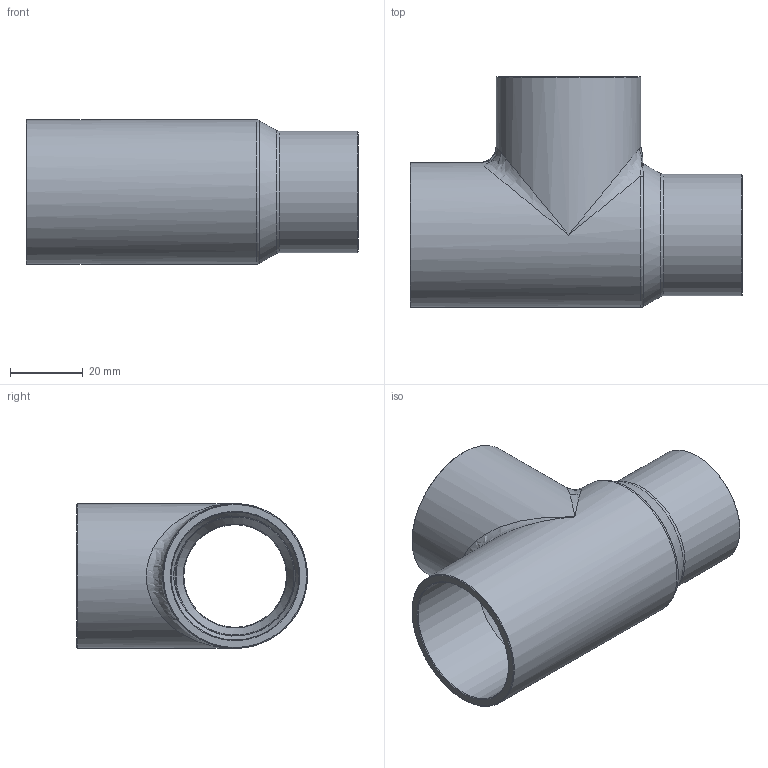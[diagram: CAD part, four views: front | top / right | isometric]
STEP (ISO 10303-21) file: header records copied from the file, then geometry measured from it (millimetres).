
FILE_DESCRIPTION((''),'2;1');
FILE_NAME('G:\SANHA-Ternat\Technik\Management\Bouwmaten + markeringen\z-maattekeningen 3D\29000s\29130138138118_3d.stp','2017-08-03T11:32:40',('vdvijverd'),(''),'Autodesk Inventor 2009','Autodesk Inventor 2009','');
FILE_SCHEMA(('AUTOMOTIVE_DESIGN { 1 0 10303 214 1 1 1 1 }'));
Length unit declared in the file: millimetre
Products named in the file (1): 29130138138118_3d
Bounding box: 91.1 x 63.35 x 39.7 mm (x, y, z)
Volume: 33162 mm3; surface area: 25664.5 mm2
Topology: 1 solids, 1 shells, 37 faces, 92 edges, 48 vertices
Faces by surface type: cone 10, bspline 10, cylinder 9, plane 4, torus 4
Full cylindrical faces by diameter (mm): 28.725 x1, 33.325 x1, 35.105 x2, 39.7 x2
Entity records: 2184 total; most frequent: CARTESIAN_POINT 1463, DIRECTION 150, ORIENTED_EDGE 116, AXIS2_PLACEMENT_3D 75, EDGE_LOOP 60, EDGE_CURVE 58, VERTEX_POINT 42, FACE_OUTER_BOUND 37
